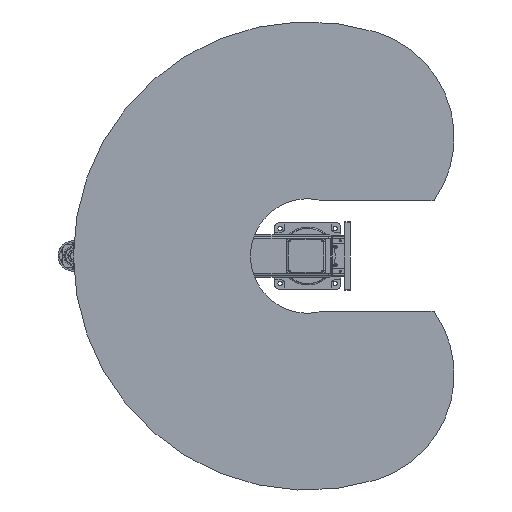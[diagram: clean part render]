
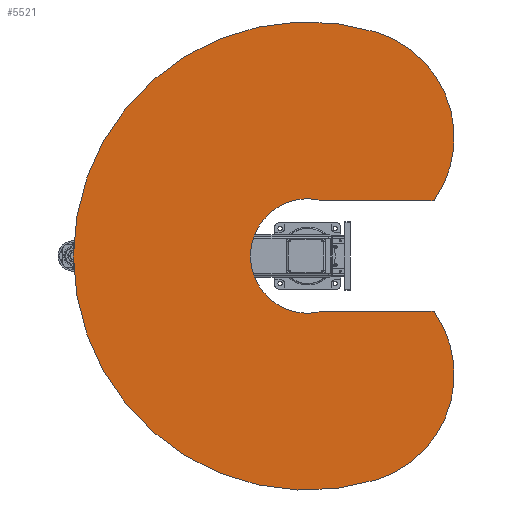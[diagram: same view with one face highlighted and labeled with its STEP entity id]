
A CAD part, front view. The second image highlights one B-rep face of the part: STEP entity #5521.
In plain terms, the highlighted planar face has unit normal (0, -1, 0).
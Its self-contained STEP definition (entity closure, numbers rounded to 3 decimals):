
#5521 = ADVANCED_FACE( '', ( #12665 ), #12666, .F. );
#12665 = FACE_OUTER_BOUND( '', #21875, .T. );
#12666 = PLANE( '', #21876 );
#21875 = EDGE_LOOP( '', ( #37982, #37983, #37984, #37985, #37986, #37987 ) );
#21876 = AXIS2_PLACEMENT_3D( '', #37988, #37989, #37990 );
#37982 = ORIENTED_EDGE( '', *, *, #53046, .F. );
#37983 = ORIENTED_EDGE( '', *, *, #50109, .F. );
#37984 = ORIENTED_EDGE( '', *, *, #53047, .T. );
#37985 = ORIENTED_EDGE( '', *, *, #49821, .F. );
#37986 = ORIENTED_EDGE( '', *, *, #52357, .F. );
#37987 = ORIENTED_EDGE( '', *, *, #53048, .F. );
#37988 = CARTESIAN_POINT( '', ( 430.337, 0., 131.567 ) );
#37989 = DIRECTION( '', ( 0., 1., 0. ) );
#37990 = DIRECTION( '', ( 0., 0., 1. ) );
#49821 = EDGE_CURVE( '', #59780, #59781, #59782, .T. );
#50109 = EDGE_CURVE( '', #60241, #60242, #60243, .T. );
#52357 = EDGE_CURVE( '', #63639, #59780, #63640, .T. );
#53046 = EDGE_CURVE( '', #60242, #64599, #64600, .T. );
#53047 = EDGE_CURVE( '', #60241, #59781, #64601, .T. );
#53048 = EDGE_CURVE( '', #64599, #63639, #64602, .T. );
#59780 = VERTEX_POINT( '', #74594 );
#59781 = VERTEX_POINT( '', #74595 );
#59782 = LINE( '', #74596, #74597 );
#60241 = VERTEX_POINT( '', #75249 );
#60242 = VERTEX_POINT( '', #75250 );
#60243 = LINE( '', #75251, #75252 );
#63639 = VERTEX_POINT( '', #81469 );
#63640 = CIRCLE( '', #81470, 400. );
#64599 = VERTEX_POINT( '', #83078 );
#64600 = CIRCLE( '', #83079, 400. );
#64601 = CIRCLE( '', #83080, 207.8 );
#64602 = CIRCLE( '', #83081, 850. );
#74594 = CARTESIAN_POINT( '', ( -200., 0., 458.591 ) );
#74595 = CARTESIAN_POINT( '', ( -200., 0., 56.399 ) );
#74596 = CARTESIAN_POINT( '', ( -200., 0., 458.591 ) );
#74597 = VECTOR( '', #90315, 1000. );
#75249 = CARTESIAN_POINT( '', ( 200., 0., 56.399 ) );
#75250 = CARTESIAN_POINT( '', ( 200., 0., 458.591 ) );
#75251 = CARTESIAN_POINT( '', ( 200., 0., 56.399 ) );
#75252 = VECTOR( '', #90705, 1000. );
#81469 = CARTESIAN_POINT( '', ( -812.859, 0., 248.516 ) );
#81470 = AXIS2_PLACEMENT_3D( '', #93351, #93352, #93353 );
#83078 = CARTESIAN_POINT( '', ( 812.859, 0., 248.516 ) );
#83079 = AXIS2_PLACEMENT_3D( '', #94134, #94135, #94136 );
#83080 = AXIS2_PLACEMENT_3D( '', #94137, #94138, #94139 );
#83081 = AXIS2_PLACEMENT_3D( '', #94140, #94141, #94142 );
#90315 = DIRECTION( '', ( 0., 0., -1. ) );
#90705 = DIRECTION( '', ( 0., 0., 1. ) );
#93351 = CARTESIAN_POINT( '', ( -430.337, 0., 131.567 ) );
#93352 = DIRECTION( '', ( 0., 1., 0. ) );
#93353 = DIRECTION( '', ( 1., 0., 0. ) );
#94134 = CARTESIAN_POINT( '', ( 430.337, 0., 131.567 ) );
#94135 = DIRECTION( '', ( 0., 1., 0. ) );
#94136 = DIRECTION( '', ( 1., 0., 0. ) );
#94137 = CARTESIAN_POINT( '', ( 0., 0., 0. ) );
#94138 = DIRECTION( '', ( 0., 1., 0. ) );
#94139 = DIRECTION( '', ( 1., 0., 0. ) );
#94140 = CARTESIAN_POINT( '', ( 0., 0., 0. ) );
#94141 = DIRECTION( '', ( 0., 1., 0. ) );
#94142 = DIRECTION( '', ( 1., 0., 0. ) );
